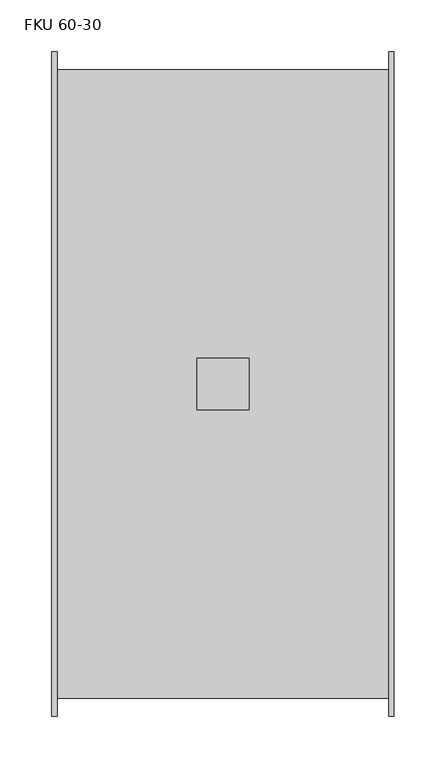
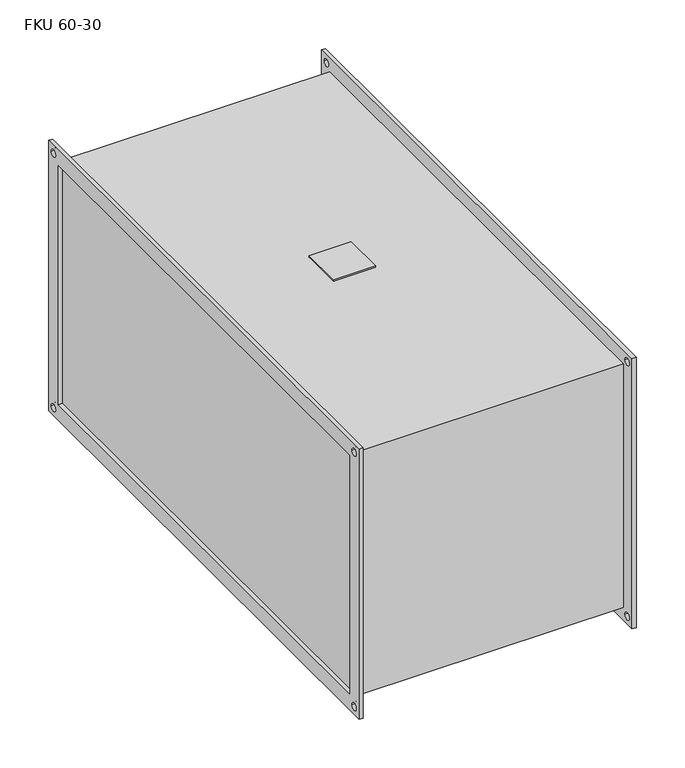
"""IFC4 building model written with IfcOpenShell, lengths in millimetres: damper geometry, KORF_Фильтр_Карманный_Укороченный_FKU : FKU 60-30."""

from ifc_helpers import new_model, si_unit, point, frame, frame_2d, origin, place, context, project, spatial, polyline, circle_curve, trimmed, segment, composite_curve, outline, extrude, source, transform, mapped, element, save


def fku_60_30_1978927d(model_context):
    return source(origin(), model_context, "Body", "SweptSolid", [
        extrude(outline(polyline([(140.0, -25.0), (140.0, 25.0), (190.0, 25.0), (190.0, -25.0), (140.0, -25.0)])), frame((0.0, 0.0, 153.0), z_axis=(0.0, 0.0, 1.0), x_axis=(1.0, 0.0, 0.0)), (0.0, 0.0, 1.0), 2.0),
        extrude(outline(polyline([(-320.0, 170.0), (320.0, 170.0), (320.0, -170.0), (-320.0, -170.0), (-320.0, 170.0)]), holes=[polyline([(-300.0, 150.0), (-300.0, -150.0), (300.0, -150.0), (300.0, 150.0), (-300.0, 150.0)]), composite_curve([segment(trimmed(circle_curve(frame_2d((310.0, 160.0)), 4.5), [point((305.5, 160.0))], [point((314.5, 160.0))], True, "CARTESIAN"), True, "CONTINUOUS"), segment(trimmed(circle_curve(frame_2d((310.0, 160.0)), 4.5), [point((314.5, 160.0))], [point((305.5, 160.0))], True, "CARTESIAN"), True, "CONTINUOUS")], self_intersect=False), composite_curve([segment(trimmed(circle_curve(frame_2d((-310.0, 160.0)), 4.5), [point((-314.5, 160.0))], [point((-305.5, 160.0))], True, "CARTESIAN"), True, "CONTINUOUS"), segment(trimmed(circle_curve(frame_2d((-310.0, 160.0)), 4.5), [point((-305.5, 160.0))], [point((-314.5, 160.0))], True, "CARTESIAN"), True, "CONTINUOUS")], self_intersect=False), composite_curve([segment(trimmed(circle_curve(frame_2d((-310.0, -160.0)), 4.5), [point((-314.5, -160.0))], [point((-305.5, -160.0))], True, "CARTESIAN"), True, "CONTINUOUS"), segment(trimmed(circle_curve(frame_2d((-310.0, -160.0)), 4.5), [point((-305.5, -160.0))], [point((-314.5, -160.0))], True, "CARTESIAN"), True, "CONTINUOUS")], self_intersect=False), composite_curve([segment(trimmed(circle_curve(frame_2d((310.0, -160.0)), 4.5), [point((305.5, -160.0))], [point((314.5, -160.0))], True, "CARTESIAN"), True, "CONTINUOUS"), segment(trimmed(circle_curve(frame_2d((310.0, -160.0)), 4.5), [point((314.5, -160.0))], [point((305.5, -160.0))], True, "CARTESIAN"), True, "CONTINUOUS")], self_intersect=False)]), frame((325.0, 0.0, 0.0), z_axis=(1.0, 0.0, 0.0), x_axis=(0.0, 1.0, 0.0)), (0.0, 0.0, 1.0), 5.0),
        extrude(outline(polyline([(-320.0, 170.0), (320.0, 170.0), (320.0, -170.0), (-320.0, -170.0), (-320.0, 170.0)]), holes=[polyline([(-300.0, 150.0), (-300.0, -150.0), (300.0, -150.0), (300.0, 150.0), (-300.0, 150.0)]), composite_curve([segment(trimmed(circle_curve(frame_2d((310.0, 160.0)), 4.5), [point((305.5, 160.0))], [point((314.5, 160.0))], True, "CARTESIAN"), True, "CONTINUOUS"), segment(trimmed(circle_curve(frame_2d((310.0, 160.0)), 4.5), [point((314.5, 160.0))], [point((305.5, 160.0))], True, "CARTESIAN"), True, "CONTINUOUS")], self_intersect=False), composite_curve([segment(trimmed(circle_curve(frame_2d((-310.0, 160.0)), 4.5), [point((-314.5, 160.0))], [point((-305.5, 160.0))], True, "CARTESIAN"), True, "CONTINUOUS"), segment(trimmed(circle_curve(frame_2d((-310.0, 160.0)), 4.5), [point((-305.5, 160.0))], [point((-314.5, 160.0))], True, "CARTESIAN"), True, "CONTINUOUS")], self_intersect=False), composite_curve([segment(trimmed(circle_curve(frame_2d((-310.0, -160.0)), 4.5), [point((-314.5, -160.0))], [point((-305.5, -160.0))], True, "CARTESIAN"), True, "CONTINUOUS"), segment(trimmed(circle_curve(frame_2d((-310.0, -160.0)), 4.5), [point((-305.5, -160.0))], [point((-314.5, -160.0))], True, "CARTESIAN"), True, "CONTINUOUS")], self_intersect=False), composite_curve([segment(trimmed(circle_curve(frame_2d((310.0, -160.0)), 4.5), [point((305.5, -160.0))], [point((314.5, -160.0))], True, "CARTESIAN"), True, "CONTINUOUS"), segment(trimmed(circle_curve(frame_2d((310.0, -160.0)), 4.5), [point((314.5, -160.0))], [point((305.5, -160.0))], True, "CARTESIAN"), True, "CONTINUOUS")], self_intersect=False)]), frame((0.0, 0.0, 0.0), z_axis=(1.0, 0.0, 0.0), x_axis=(0.0, 1.0, 0.0)), (0.0, 0.0, 1.0), 5.0),
        extrude(outline(polyline([(325.0, 303.0), (325.0, -303.0), (5.0, -303.0), (5.0, 303.0), (325.0, 303.0)])), frame((0.0, 0.0, -153.0), z_axis=(0.0, 0.0, 1.0), x_axis=(1.0, 0.0, 0.0)), (0.0, 0.0, 1.0), 306.0),
    ])


if __name__ == "__main__":
    model = new_model("IFC4")
    model_context = context("Model", 3, world=origin())
    ifc_project = project(units=[si_unit("LENGTHUNIT", "METRE", prefix="MILLI")], contexts=[model_context])
    site = spatial("IfcSite", under=ifc_project)
    building = spatial("IfcBuilding", under=site)
    placement = place(None, origin())
    fku_60_30_shape = fku_60_30_1978927d(model_context)
    element("IfcDamper", 1, ObjectType="KORF_Фильтр_Карманный_Укороченный_FKU : FKU 60-30", at=placement, inside=building, context=model_context, shape_type="MappedRepresentation", body=[
        mapped(fku_60_30_shape, transform((0.0, 0.0, 0.0), x_axis=(1.0, 0.0, 0.0), y_axis=(0.0, 1.0, 0.0), z_axis=(0.0, 0.0, 1.0))),
    ])
    save(model, "model.ifc")
